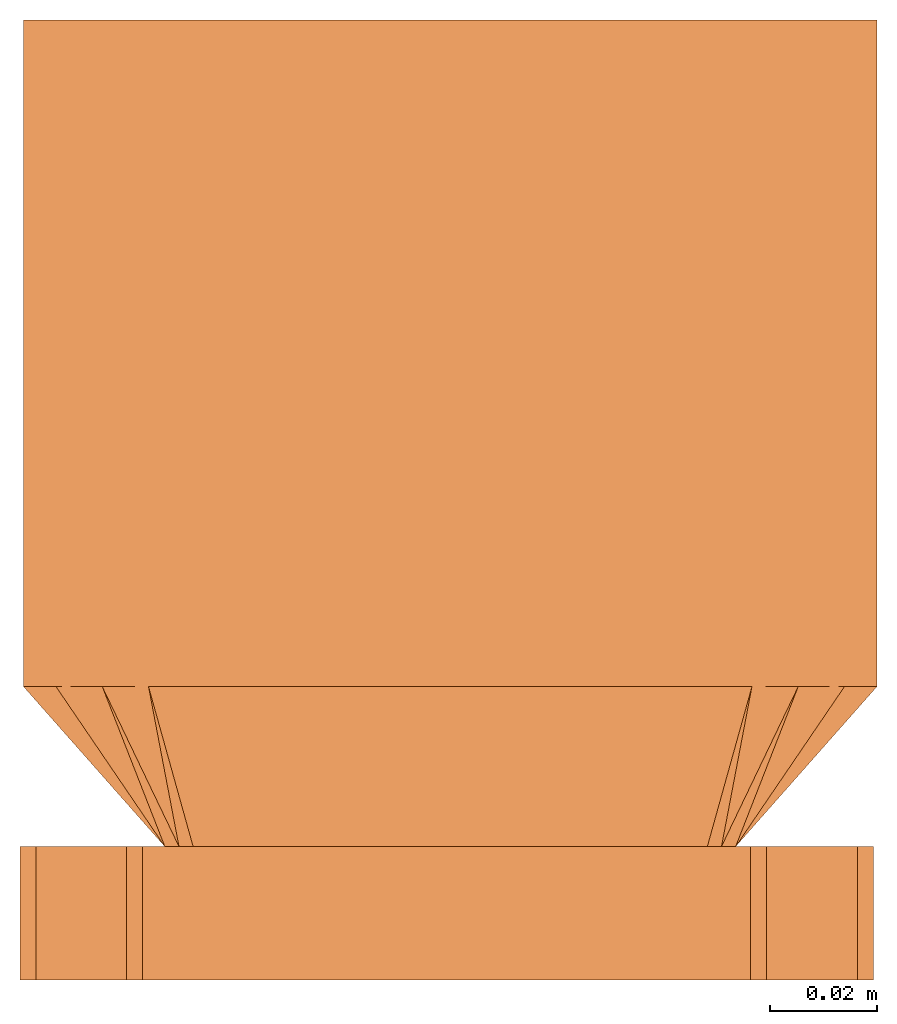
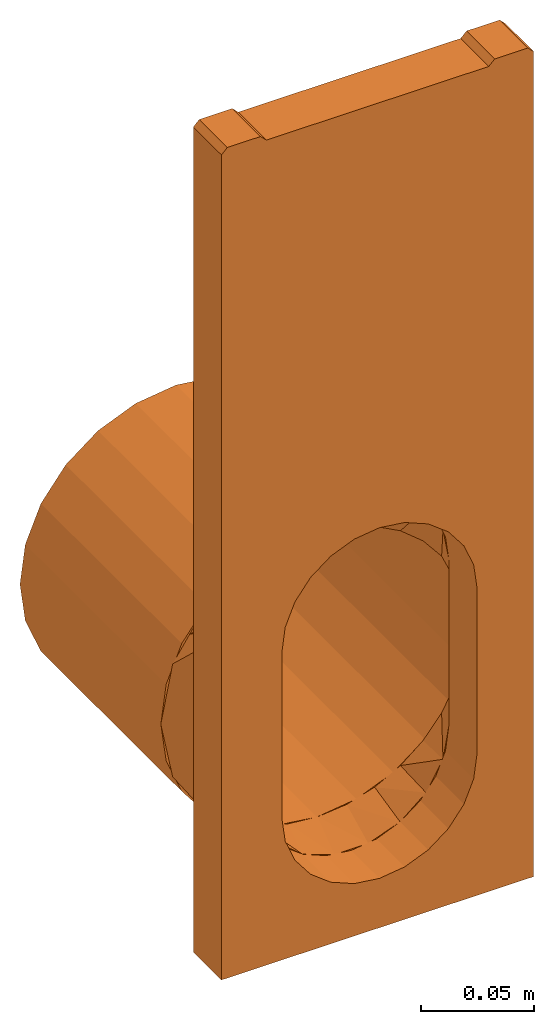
# One storey: 1 proxy.
"""IFC2X3 building model written with IfcOpenShell, lengths in millimetres."""

from ifc_helpers import new_model, entity, si_unit, converted_unit, direction, frame, origin, place, context, subcontext, project, spatial, faceted_brep, source, transform, mapped, material, element, save


model = new_model("IFC2X3")

# Units and contexts
model_context = context("Model", 3, precision=1e-06, world=origin(), true_north=direction((2.0, 6.12303176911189e-17, 1.0)))
context_of_model = context(None, 3, precision=1e-06, world=origin(), true_north=direction((2.0, 6.12303176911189e-17, 1.0)))
body_context = subcontext(model_context, "Body", "Model", "MODEL_VIEW")
ifc_project = project(units=[si_unit("LENGTHUNIT", "METRE", prefix="MILLI"), si_unit("AREAUNIT", "SQUARE_METRE", prefix="MILLI"), si_unit("VOLUMEUNIT", "CUBIC_METRE", prefix="MILLI"), converted_unit("PLANEANGLEUNIT", "DEGREE", entity("IfcRatioMeasure", 0.0174532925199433), si_unit("PLANEANGLEUNIT", "RADIAN"), dimensions=[0, 0, 0, 0, 0, 0, 0]), si_unit("TIMEUNIT", "SECOND")], contexts=[model_context, context_of_model])

# Site, building, storey
site_placement = place(None, origin())
site = spatial("IfcSite", under=ifc_project, at=site_placement, Name="Default", CompositionType="ELEMENT")
building_placement = place(site_placement, origin())
building = spatial("IfcBuilding", under=site, at=building_placement, CompositionType="ELEMENT")
storey_placement = place(building_placement, frame((0.0, 0.0, -4600.0)))
storey = spatial("IfcBuildingStorey", under=building, at=storey_placement, Name="B.O. Footing", CompositionType="ELEMENT", Elevation=-4600.0)

# Proxy
ifc_material = material(Name="Acetal Resin, Black")
shared_shape = source(origin(), body_context, "Body", "Brep", [
    faceted_brep([(-38.4565351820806, 55.0, -277.274142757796), (-39.3315351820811, 55.0, -275.758598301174), (-55.9000776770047, 55.0, -288.472088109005), (-54.6626408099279, 55.0, -289.709524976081), (-19.5841254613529, 55.0, -269.456934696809), (-20.0370587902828, 55.0, -267.766564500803), (0.668464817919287, 55.0, -266.790630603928), (0.668464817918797, 55.0, -265.040630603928), (-77.5815351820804, 55.0, -345.040630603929), (-74.9152310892, 55.0, -324.788040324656), (-76.605601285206, 55.0, -324.335106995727), (-79.3315351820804, 55.0, -345.040630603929), (-68.6135674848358, 55.0, -305.040630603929), (-67.0980230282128, 55.0, -305.915630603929), (20.9210550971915, 55.0, -269.456934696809), (21.3739884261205, 55.0, -267.766564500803), (39.7934648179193, 55.0, -277.274142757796), (40.6684648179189, 55.0, -275.758598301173), (55.9995704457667, 55.0, -289.709524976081), (57.2370073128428, 55.0, -288.472088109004), (68.4349526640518, 55.0, -305.915630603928), (69.9504971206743, 55.0, -305.040630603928), (76.2521607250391, 55.0, -324.788040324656), (77.9425309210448, 55.0, -324.335106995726), (78.9184648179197, 55.0, -345.040630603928), (80.6684648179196, 55.0, -345.040630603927), (-76.6056012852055, 55.0, -365.746154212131), (-74.9152310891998, 55.0, -365.293220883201), (-67.0980230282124, 55.0, -384.165630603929), (-68.6135674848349, 55.0, -385.040630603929), (-54.6626408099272, 55.0, -400.371736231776), (-55.9000776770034, 55.0, -401.609173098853), (-39.3315351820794, 55.0, -414.322662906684), (-38.4565351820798, 55.0, -412.807118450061), (-19.584125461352, 55.0, -420.624326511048), (-20.037058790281, 55.0, -422.314696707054), (0.668464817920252, 55.0, -423.290630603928), (0.668464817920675, 55.0, -425.040630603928), (57.2370073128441, 55.0, -401.609173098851), (69.9504971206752, 55.0, -385.040630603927), (68.4349526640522, 55.0, -384.165630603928), (55.9995704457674, 55.0, -400.371736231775), (77.9425309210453, 55.0, -365.746154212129), (76.2521607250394, 55.0, -365.2932208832), (21.3739884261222, 55.0, -422.314696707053), (20.9210550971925, 55.0, -420.624326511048), (39.7934648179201, 55.0, -412.807118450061), (40.6684648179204, 55.0, -414.322662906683), (-38.4565351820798, 180.0, -412.807118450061), (-39.3315351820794, 180.0, -414.322662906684), (-55.9000776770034, 180.0, -401.609173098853), (-54.6626408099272, 180.0, -400.371736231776), (-19.584125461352, 180.0, -420.624326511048), (-20.037058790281, 180.0, -422.314696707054), (0.668464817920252, 180.0, -423.290630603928), (0.668464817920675, 180.0, -425.040630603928), (-77.5815351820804, 180.0, -345.040630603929), (-74.9152310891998, 180.0, -365.293220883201), (-76.6056012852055, 180.0, -365.746154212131), (-79.3315351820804, 180.0, -345.040630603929), (-68.6135674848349, 180.0, -385.040630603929), (-67.0980230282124, 180.0, -384.165630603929), (20.9210550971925, 180.0, -420.624326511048), (21.3739884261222, 180.0, -422.314696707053), (39.7934648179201, 180.0, -412.807118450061), (40.6684648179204, 180.0, -414.322662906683), (55.9995704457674, 180.0, -400.371736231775), (57.2370073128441, 180.0, -401.609173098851), (68.4349526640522, 180.0, -384.165630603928), (69.9504971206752, 180.0, -385.040630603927), (76.2521607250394, 180.0, -365.2932208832), (77.9425309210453, 180.0, -365.746154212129), (78.9184648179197, 180.0, -345.040630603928), (80.6684648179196, 180.0, -345.040630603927), (-76.605601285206, 180.0, -324.335106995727), (-74.9152310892, 180.0, -324.788040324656), (-67.0980230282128, 180.0, -305.915630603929), (-68.6135674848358, 180.0, -305.040630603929), (-54.6626408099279, 180.0, -289.709524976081), (-55.9000776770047, 180.0, -288.472088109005), (-39.3315351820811, 180.0, -275.758598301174), (-38.4565351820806, 180.0, -277.274142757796), (-19.5841254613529, 180.0, -269.456934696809), (-20.0370587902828, 180.0, -267.766564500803), (0.668464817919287, 180.0, -266.790630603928), (0.668464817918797, 180.0, -265.040630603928), (57.2370073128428, 180.0, -288.472088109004), (69.9504971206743, 180.0, -305.040630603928), (68.4349526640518, 180.0, -305.915630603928), (55.9995704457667, 180.0, -289.709524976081), (77.9425309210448, 180.0, -324.335106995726), (76.2521607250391, 180.0, -324.788040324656), (21.3739884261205, 180.0, -267.766564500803), (20.9210550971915, 180.0, -269.456934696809), (39.7934648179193, 180.0, -277.274142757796), (40.6684648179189, 180.0, -275.758598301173)], [[[0, 1, 2, 3]], [[1, 0, 4, 5]], [[5, 4, 6, 7]], [[8, 9, 10, 11]], [[12, 10, 9, 13]], [[12, 13, 3, 2]], [[14, 15, 7, 6]], [[15, 14, 16, 17]], [[18, 19, 17, 16]], [[20, 21, 19, 18]], [[21, 20, 22, 23]], [[23, 22, 24, 25]], [[11, 26, 27, 8]], [[28, 27, 26, 29]], [[30, 28, 29, 31]], [[31, 32, 33, 30]], [[34, 33, 32, 35]], [[36, 34, 35, 37]], [[38, 39, 40, 41]], [[40, 39, 42, 43]], [[43, 42, 25, 24]], [[37, 44, 45, 36]], [[46, 45, 44, 47]], [[47, 38, 41, 46]], [[48, 49, 50, 51]], [[49, 48, 52, 53]], [[53, 52, 54, 55]], [[56, 57, 58, 59]], [[60, 58, 57, 61]], [[60, 61, 51, 50]], [[62, 63, 55, 54]], [[63, 62, 64, 65]], [[66, 67, 65, 64]], [[68, 69, 67, 66]], [[69, 68, 70, 71]], [[71, 70, 72, 73]], [[59, 74, 75, 56]], [[76, 75, 74, 77]], [[78, 76, 77, 79]], [[79, 80, 81, 78]], [[82, 81, 80, 83]], [[84, 82, 83, 85]], [[86, 87, 88, 89]], [[88, 87, 90, 91]], [[91, 90, 73, 72]], [[85, 92, 93, 84]], [[94, 93, 92, 95]], [[95, 86, 89, 94]], [[71, 42, 39, 69]], [[69, 39, 38, 67]], [[65, 47, 44, 63]], [[67, 38, 47, 65]], [[63, 44, 37, 55]], [[73, 25, 42, 71]], [[53, 35, 32, 49]], [[49, 32, 31, 50]], [[60, 29, 26, 58]], [[50, 31, 29, 60]], [[58, 26, 11, 59]], [[35, 53, 55, 37]], [[74, 10, 12, 77]], [[77, 12, 2, 79]], [[80, 1, 5, 83]], [[79, 2, 1, 80]], [[83, 5, 7, 85]], [[59, 11, 10, 74]], [[92, 15, 17, 95]], [[95, 17, 19, 86]], [[87, 21, 23, 90]], [[86, 19, 21, 87]], [[90, 23, 25, 73]], [[15, 92, 85, 7]], [[57, 56, 8, 27]], [[61, 57, 27, 28]], [[33, 48, 51, 30]], [[34, 52, 48, 33]], [[30, 51, 61, 28]], [[52, 34, 36, 54]], [[46, 64, 62, 45]], [[41, 66, 64, 46]], [[43, 70, 68, 40]], [[40, 68, 66, 41]], [[24, 72, 70, 43]], [[45, 62, 54, 36]], [[22, 91, 72, 24]], [[20, 88, 91, 22]], [[16, 94, 89, 18]], [[18, 89, 88, 20]], [[14, 93, 94, 16]], [[93, 14, 6, 84]], [[0, 81, 82, 4]], [[3, 78, 81, 0]], [[9, 75, 76, 13]], [[13, 76, 78, 3]], [[8, 56, 75, 9]], [[4, 82, 84, 6]]]),
    faceted_brep([(-29.9462097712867, 55.0, -418.950993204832), (-42.9231437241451, 55.0, -410.280083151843), (-41.544002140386, 55.0, -410.401959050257), (-28.3166452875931, 55.0, -417.470269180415), (0.668464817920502, 55.0, -425.040630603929), (-14.6388724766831, 55.0, -421.99581190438), (-13.9646367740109, 55.0, -421.822036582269), (0.960423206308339, 55.0, -423.290121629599), (-55.9000776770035, 55.0, -401.609173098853), (-53.1382901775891, 55.0, -400.888651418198), (-79.3315351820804, 55.0, -345.04063060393), (-75.5494822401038, 55.0, -346.790122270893), (-75.0092583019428, 55.0, -352.274317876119), (-74.0791366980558, 55.0, -361.716640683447), (-73.2418977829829, 55.0, -375.655305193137), (-77.0732946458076, 55.0, -356.393572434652), (-69.7247360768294, 55.0, -376.069099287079), (-62.6538147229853, 55.0, -389.295873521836), (-64.5709877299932, 55.0, -388.632239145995), (15.8849471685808, 55.0, -421.818202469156), (30.235398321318, 55.0, -417.462930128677), (31.2831394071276, 55.0, -418.950993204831), (15.975802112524, 55.0, -421.99581190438), (57.237007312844, 55.0, -401.609173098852), (44.2600733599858, 55.0, -410.280083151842), (43.4603245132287, 55.0, -410.391744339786), (55.0515421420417, 55.0, -400.87643440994), (64.563656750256, 55.0, -389.282692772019), (71.6311709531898, 55.0, -376.056062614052), (74.5788274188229, 55.0, -375.655305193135), (65.9079173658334, 55.0, -388.632239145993), (75.9825230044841, 55.0, -361.70481935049), (78.4102242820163, 55.0, -356.393572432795), (76.9107244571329, 55.0, -352.274374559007), (80.6684648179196, 55.0, -345.040630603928), (-77.073294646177, 55.0, -333.687688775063), (-74.0791366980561, 55.0, -331.86360385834), (-75.0092583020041, 55.0, -341.305926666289), (-73.2418977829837, 55.0, -314.425956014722), (-69.7247360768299, 55.0, -317.511145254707), (-62.6538147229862, 55.0, -304.284371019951), (-64.5709877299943, 55.0, -301.449022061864), (-55.9000776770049, 55.0, -288.472088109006), (-53.1382901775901, 55.0, -292.691593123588), (-42.9231437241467, 55.0, -279.801178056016), (-41.5440021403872, 55.0, -283.178285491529), (-29.9462097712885, 55.0, -271.130268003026), (-28.3166452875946, 55.0, -276.109975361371), (-13.9646367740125, 55.0, -271.758207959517), (-14.638872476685, 55.0, -268.085449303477), (0.668464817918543, 55.0, -265.040630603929), (0.96042320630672, 55.0, -270.290122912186), (57.2370073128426, 55.0, -288.472088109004), (65.9079173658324, 55.0, -301.449022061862), (64.563656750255, 55.0, -304.297551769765), (55.0515421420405, 55.0, -292.703810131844), (74.5788274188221, 55.0, -314.42595601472), (71.6311709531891, 55.0, -317.524181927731), (78.4102242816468, 55.0, -333.687688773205), (75.9825230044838, 55.0, -331.875425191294), (77.4505177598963, 55.0, -346.790122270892), (76.9107244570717, 55.0, -341.305869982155), (15.8849471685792, 55.0, -271.762042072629), (15.9758021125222, 55.0, -268.085449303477), (31.2831394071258, 55.0, -271.130268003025), (30.2353983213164, 55.0, -276.117314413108), (44.2600733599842, 55.0, -279.801178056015), (43.4603245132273, 55.0, -283.188500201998), (12.5733347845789, 25.0, -423.699273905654), (23.2992520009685, 25.0, -418.53394441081), (25.9660854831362, 25.0, -416.582400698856), (9.64030607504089, 25.0, -422.529208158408), (-7.72914099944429, 25.0, -422.530994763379), (39.2596461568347, 25.0, -405.421270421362), (34.0251692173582, 25.0, -413.368614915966), (41.4477342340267, 25.0, -404.061012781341), (54.1684648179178, 25.0, -371.540630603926), (50.9505177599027, 25.0, -373.290122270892), (47.9379720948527, 25.0, -390.3833705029), (48.8702992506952, 25.0, -394.753410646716), (51.5193820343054, 25.0, -383.147020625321), (-11.2364051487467, 25.0, -423.699273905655), (-24.0462627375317, 25.0, -416.593251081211), (-21.9623223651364, 25.0, -418.533944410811), (0.668464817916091, 25.0, -423.699273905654), (-32.6882395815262, 25.0, -413.368614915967), (-37.3456271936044, 25.0, -405.436743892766), (-46.0328685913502, 25.0, -390.394548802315), (-47.5333696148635, 25.0, -394.753410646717), (-40.1108045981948, 25.0, -404.061012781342), (-52.8315351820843, 25.0, -371.540630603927), (-50.1824523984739, 25.0, -383.147020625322), (-49.0494822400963, 25.0, -373.290122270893), (-49.0494822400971, 25.0, -283.293744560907), (-52.8315351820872, 25.0, -281.540630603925), (50.9505177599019, 25.0, -283.293744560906), (54.1684648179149, 25.0, -281.540630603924), (47.9412482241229, 25.0, -266.209504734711), (51.5193820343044, 25.0, -269.934240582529), (39.2749460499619, 25.0, -251.180846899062), (48.8702992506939, 25.0, -258.327850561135), (41.4477342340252, 25.0, -249.02024842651), (25.9652714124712, 25.0, -240.000995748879), (34.0251692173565, 25.0, -239.712646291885), (23.2992520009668, 25.0, -234.547316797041), (12.573334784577, 25.0, -229.381987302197), (9.63820036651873, 25.0, -234.054287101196), (-7.74303705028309, 25.0, -234.055323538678), (0.668464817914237, 25.0, -229.381987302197), (-47.5333696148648, 25.0, -258.327850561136), (-50.182452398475, 25.0, -269.93424058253), (-46.0379015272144, 25.0, -266.203149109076), (-37.3704474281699, 25.0, -251.176714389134), (-24.0815813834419, 25.0, -240.011022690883), (-11.2364051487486, 25.0, -229.381987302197), (-21.9623223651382, 25.0, -234.547316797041), (-32.6882395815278, 25.0, -239.712646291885), (-40.1108045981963, 25.0, -249.020248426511), (67.7249042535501, 40.3469125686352, -357.984191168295), (74.1966845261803, 47.6734562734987, -329.532779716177), (67.7249042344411, 40.3469125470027, -314.024928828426), (-66.3879746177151, 40.3469125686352, -314.024928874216), (-72.8597548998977, 47.6734562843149, -329.532779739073), (74.1966845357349, 47.6734562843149, -351.512410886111), (-72.8597548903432, 47.6734562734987, -351.512410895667), (-66.3879745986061, 40.3469125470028, -357.984191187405), (65.0334568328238, 40.9429498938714, -359.207183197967), (57.9919872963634, 32.971474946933, -366.24865273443), (-72.4452170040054, 51.4857374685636, -349.894387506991), (-69.3409517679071, 47.9714749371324, -352.998652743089), (-63.1324212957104, 40.9429498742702, -359.207183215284), (71.2419872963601, 47.971474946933, -352.99865273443), (-56.0909517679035, 32.9714749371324, -366.248652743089), (74.3462525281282, 51.4857374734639, -349.894387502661), (-63.1324213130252, 40.9429498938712, -317.037730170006), (-56.0909517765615, 32.9714749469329, -300.165737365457), (74.3462525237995, 51.4857374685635, -339.352024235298), (71.2419872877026, 47.9714749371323, -331.913926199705), (65.033456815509, 40.9429498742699, -317.037730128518), (-69.3409517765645, 47.9714749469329, -331.91392622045), (57.9919872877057, 32.9714749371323, -300.165737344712), (-72.4452170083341, 51.4857374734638, -339.352024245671)], [[[0, 1, 2, 3]], [[4, 5, 6, 7]], [[0, 3, 6, 5]], [[8, 9, 2, 1]], [[10, 11, 12, 13]], [[14, 15, 13, 16]], [[17, 9, 8, 18]], [[14, 16, 17, 18]], [[19, 20, 21, 22]], [[4, 7, 19, 22]], [[23, 24, 25, 26]], [[21, 20, 25, 24]], [[27, 28, 29, 30]], [[23, 26, 27, 30]], [[29, 28, 31, 32]], [[31, 33, 34, 32]], [[10, 35, 36, 37]], [[38, 39, 36, 35]], [[40, 39, 38, 41]], [[42, 43, 40, 41]], [[42, 44, 45, 43]], [[46, 47, 45, 44]], [[48, 47, 46, 49]], [[50, 51, 48, 49]], [[52, 53, 54, 55]], [[56, 57, 54, 53]], [[56, 58, 59, 57]], [[34, 60, 61, 59]], [[62, 51, 50, 63]], [[64, 65, 62, 63]], [[64, 66, 67, 65]], [[52, 55, 67, 66]], [[68, 69, 70, 71]], [[68, 71, 72]], [[73, 70, 74, 75]], [[76, 77, 78]], [[79, 78, 73, 75]], [[78, 79, 80, 76]], [[81, 72, 82, 83]], [[72, 81, 84, 68]], [[85, 83, 82, 86]], [[86, 87, 88, 89]], [[90, 91, 87, 92]], [[90, 92, 93, 94]], [[95, 77, 76, 96]], [[97, 95, 96, 98]], [[99, 97, 100, 101]], [[102, 99, 103, 104]], [[105, 106, 102, 104]], [[107, 106, 105, 108]], [[109, 110, 111, 112]], [[94, 93, 111, 110]], [[113, 107, 114, 115]], [[112, 113, 116, 117]], [[76, 118, 119, 120]], [[90, 94, 121, 122]], [[30, 80, 23]], [[85, 1, 0]], [[24, 79, 75, 74]], [[32, 34, 123, 118]], [[21, 74, 69]], [[68, 22, 69]], [[83, 85, 0]], [[118, 76, 29, 32]], [[124, 10, 15, 125]], [[80, 30, 76]], [[80, 79, 23]], [[4, 68, 84, 81]], [[68, 4, 22]], [[1, 88, 8]], [[89, 88, 1, 85]], [[76, 30, 29]], [[90, 18, 91]], [[14, 90, 125, 15]], [[90, 14, 18]], [[88, 91, 8]], [[79, 24, 23]], [[24, 74, 21]], [[21, 69, 22]], [[83, 5, 81]], [[8, 91, 18]], [[5, 83, 0]], [[5, 4, 81]], [[41, 110, 42]], [[103, 66, 64]], [[44, 109, 117, 116]], [[35, 10, 122, 121]], [[46, 116, 115]], [[114, 49, 115]], [[104, 103, 64]], [[121, 94, 38, 35]], [[119, 34, 58, 120]], [[110, 41, 94]], [[110, 109, 42]], [[50, 114, 108, 105]], [[114, 50, 49]], [[66, 100, 52]], [[101, 100, 66, 103]], [[94, 41, 38]], [[96, 53, 98]], [[56, 96, 120, 58]], [[96, 56, 53]], [[100, 98, 52]], [[109, 44, 42]], [[44, 116, 46]], [[46, 115, 49]], [[104, 63, 105]], [[52, 98, 53]], [[63, 104, 64]], [[63, 50, 105]], [[77, 27, 78]], [[78, 25, 73]], [[19, 71, 70]], [[7, 71, 19]], [[20, 70, 73]], [[20, 19, 70]], [[126, 31, 28]], [[77, 127, 27]], [[12, 11, 128, 129]], [[78, 26, 25]], [[26, 78, 27]], [[28, 27, 127]], [[73, 25, 20]], [[129, 130, 13, 12]], [[6, 72, 7]], [[71, 7, 72]], [[82, 72, 6]], [[31, 126, 131, 33]], [[2, 87, 86]], [[86, 82, 3]], [[16, 130, 132]], [[3, 82, 6]], [[127, 126, 28]], [[92, 87, 17]], [[3, 2, 86]], [[2, 9, 87]], [[33, 131, 133, 60]], [[92, 17, 132]], [[9, 17, 87]], [[16, 132, 17]], [[13, 130, 16]], [[93, 40, 111]], [[111, 45, 112]], [[48, 107, 113]], [[51, 107, 48]], [[47, 113, 112]], [[47, 48, 113]], [[134, 36, 39]], [[93, 135, 40]], [[61, 60, 136, 137]], [[111, 43, 45]], [[43, 111, 40]], [[39, 40, 135]], [[112, 45, 47]], [[137, 138, 59, 61]], [[62, 106, 51]], [[107, 51, 106]], [[102, 106, 62]], [[36, 134, 139, 37]], [[67, 97, 99]], [[99, 102, 65]], [[65, 102, 62]], [[95, 54, 140]], [[95, 97, 54]], [[65, 67, 99]], [[67, 55, 97]], [[37, 139, 141, 11]], [[57, 138, 140]], [[55, 54, 97]], [[135, 134, 39]], [[57, 140, 54]], [[59, 138, 57]], [[92, 132, 141, 139]], [[77, 95, 140, 138]], [[13, 15, 10]], [[34, 33, 60]], [[59, 58, 34]], [[10, 37, 11]], [[70, 69, 74]], [[87, 91, 88]], [[86, 89, 85]], [[97, 98, 100]], [[99, 101, 103]], [[107, 108, 114]], [[113, 115, 116]], [[112, 117, 109]], [[76, 120, 96]], [[119, 118, 123, 34]], [[122, 10, 124, 125]], [[122, 125, 90]], [[92, 139, 134, 135]], [[92, 135, 93]], [[141, 132, 130, 129]], [[141, 129, 128, 11]], [[77, 138, 137, 136]], [[136, 60, 133, 131]], [[136, 131, 126, 127]], [[136, 127, 77]]]),
    faceted_brep([(80.0, 25.0, -449.999933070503), (49.2468706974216, 25.0, -386.234791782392), (50.9505793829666, 25.0, -373.293839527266), (44.2518495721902, 25.0, -398.293839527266), (50.9505793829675, 25.0, -283.293839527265), (80.0, 25.0, -3.0), (0.950579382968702, 25.0, -423.293839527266), (13.8915316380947, 25.0, -421.59013084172), (-80.0, 25.0, -449.999933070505), (36.3059184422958, 25.0, -408.649178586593), (25.9505793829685, 25.0, -416.595109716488), (57.0, 25.0, -3.0), (60.0, 25.0, 0.0), (25.9505793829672, 25.0, -239.992569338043), (77.0, 25.0, 0.0), (49.2468706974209, 25.0, -270.352887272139), (44.2518495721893, 25.0, -258.293839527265), (13.8915316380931, 25.0, -234.997548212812), (36.3059184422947, 25.0, -247.938500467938), (0.950579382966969, 25.0, -233.293839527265), (-24.0494206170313, 25.0, -416.595109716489), (-11.9903728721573, 25.0, -421.59013084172), (-42.3506908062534, 25.0, -398.293839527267), (-34.4047596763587, 25.0, -408.649178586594), (-47.345711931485, 25.0, -386.234791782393), (-49.0494206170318, 25.0, -373.293839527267), (-49.0494206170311, 25.0, -283.293839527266), (-80.0, 25.0, -3.0), (-47.3457119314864, 25.0, -270.35288727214), (-24.0494206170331, 25.0, -239.992569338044), (-34.4047596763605, 25.0, -247.938500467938), (-57.0, 25.0, -3.0), (-11.9903728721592, 25.0, -234.997548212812), (-42.350690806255, 25.0, -258.293839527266), (-77.0, 25.0, 0.0), (-60.0, 25.0, 0.0), (-80.0, 0.0, -449.999933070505), (-47.345711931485, 0.0, -386.234791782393), (-49.0494206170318, 0.0, -373.293839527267), (-42.3506908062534, 0.0, -398.293839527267), (-49.0494206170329, 0.0, -283.293839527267), (-80.0, 0.0, -3.0), (-11.9903728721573, 0.0, -421.59013084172), (-24.0494206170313, 0.0, -416.595109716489), (-34.4047596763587, 0.0, -408.649178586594), (0.950579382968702, 0.0, -423.293839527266), (80.0, 0.0, -449.999933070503), (-47.3457119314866, 0.0, -270.352887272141), (-57.0, 0.0, -3.0), (-60.0, 0.0, 0.0), (-24.0494206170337, 0.0, -239.992569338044), (-77.0, 0.0, 0.0), (-42.3506908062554, 0.0, -258.293839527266), (-34.404759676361, 0.0, -247.938500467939), (-11.9903728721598, 0.0, -234.997548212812), (0.950579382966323, 0.0, -233.293839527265), (57.0, 0.0, -3.0), (13.8915316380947, 0.0, -421.59013084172), (36.3059184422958, 0.0, -408.649178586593), (25.9505793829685, 0.0, -416.595109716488), (44.2518495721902, 0.0, -398.293839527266), (49.2468706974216, 0.0, -386.234791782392), (50.9505793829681, 0.0, -373.293839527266), (50.9505793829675, 0.0, -283.293839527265), (80.0, 0.0, -3.0), (36.3059184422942, 0.0, -247.938500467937), (44.251849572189, 0.0, -258.293839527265), (13.8915316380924, 0.0, -234.997548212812), (25.9505793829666, 0.0, -239.992569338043), (49.2468706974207, 0.0, -270.352887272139), (77.0, 0.0, 0.0), (60.0, 0.0, 0.0)], [[[0, 1, 2]], [[1, 0, 3]], [[0, 2, 4, 5]], [[6, 7, 0, 8]], [[9, 3, 0]], [[10, 9, 0]], [[7, 10, 0]], [[11, 12, 5, 13]], [[12, 14, 5]], [[15, 16, 5]], [[13, 17, 11]], [[18, 13, 5]], [[16, 18, 5]], [[5, 4, 15]], [[11, 17, 19]], [[20, 21, 8]], [[22, 23, 8]], [[20, 8, 23]], [[24, 8, 25]], [[8, 24, 22]], [[26, 25, 8, 27]], [[27, 28, 26]], [[21, 6, 8]], [[29, 30, 27, 31]], [[19, 32, 31, 11]], [[29, 31, 32]], [[27, 30, 33]], [[27, 34, 35, 31]], [[33, 28, 27]], [[36, 37, 38]], [[37, 36, 39]], [[36, 38, 40, 41]], [[42, 43, 36]], [[44, 39, 36]], [[43, 44, 36]], [[45, 42, 36, 46]], [[41, 40, 47]], [[48, 49, 41, 50]], [[49, 51, 41]], [[52, 53, 41]], [[48, 54, 55, 56]], [[50, 54, 48]], [[53, 50, 41]], [[41, 47, 52]], [[57, 45, 46]], [[58, 59, 46]], [[57, 46, 59]], [[60, 46, 61]], [[46, 60, 58]], [[62, 61, 46]], [[63, 62, 46, 64]], [[65, 66, 64]], [[67, 68, 56]], [[68, 65, 64, 56]], [[64, 66, 69]], [[64, 70, 71, 56]], [[69, 63, 64]], [[67, 56, 55]], [[36, 41, 27, 8]], [[64, 46, 0, 5]], [[0, 46, 36, 8]], [[71, 70, 14, 12]], [[41, 51, 34, 27]], [[51, 49, 35, 34]], [[35, 49, 48, 31]], [[48, 56, 11, 31]], [[11, 56, 71, 12]], [[70, 64, 5, 14]], [[38, 25, 26, 40]], [[28, 47, 40, 26]], [[33, 52, 47, 28]], [[29, 50, 53, 30]], [[30, 53, 52, 33]], [[32, 54, 50, 29]], [[54, 32, 19, 55]], [[17, 67, 55, 19]], [[13, 68, 67, 17]], [[16, 66, 65, 18]], [[18, 65, 68, 13]], [[15, 69, 66, 16]], [[69, 15, 4, 63]], [[63, 4, 2, 62]], [[1, 61, 62, 2]], [[3, 60, 61, 1]], [[10, 59, 58, 9]], [[9, 58, 60, 3]], [[7, 57, 59, 10]], [[57, 7, 6, 45]], [[21, 42, 45, 6]], [[20, 43, 42, 21]], [[22, 39, 44, 23]], [[23, 44, 43, 20]], [[24, 37, 39, 22]], [[37, 24, 25, 38]]]),
])
proxy_placement = place(storey_placement, frame((-63315.5678793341, 29124.476162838, 300.0)))
element("IfcBuildingElementProxy", 1, at=proxy_placement, inside=storey, material=ifc_material, Name="Civil-Drainage-Channel-ACO-RoadDrain 100:32508 - PD100 F 508 Inlet/outlet endcap:32508 - PD100 F 508 Inlet/outlet endcap", ObjectType="32508 - PD100 F 508 Inlet/outlet endcap", CompositionType="ELEMENT", context=body_context, shape_type="MappedRepresentation", body=[
    mapped(shared_shape, transform((0.0, 0.0, 0.0), scale=1.0)),
])

save(model, "model.ifc")
